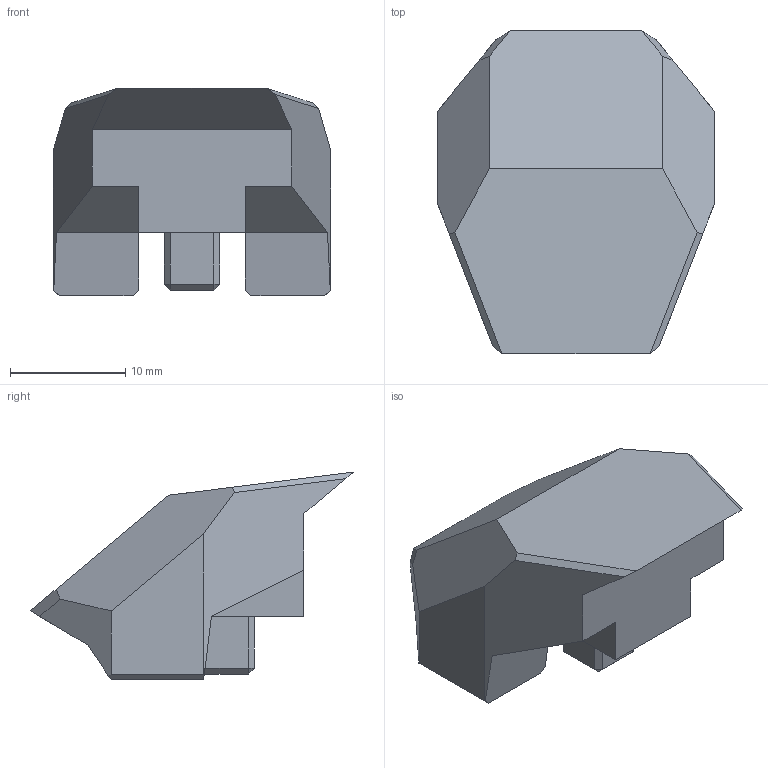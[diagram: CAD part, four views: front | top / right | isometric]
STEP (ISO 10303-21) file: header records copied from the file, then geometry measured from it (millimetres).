
FILE_DESCRIPTION (( 'STEP AP214' ), '1' );
FILE_NAME ('Chest Armor.STEP', '2023-12-23T22:28:55', ( '' ), ( '' ), 'SwSTEP 2.0', 'SolidWorks 2023', '' );
FILE_SCHEMA (( 'AUTOMOTIVE_DESIGN' ));
Length unit declared in the file: millimetre
Products named in the file (1): Chest Armor
Bounding box: 24 x 28 x 18 mm (x, y, z)
Volume: 4930 mm3; surface area: 2127.4 mm2
Topology: 1 solids, 1 shells, 51 faces, 128 edges, 80 vertices
Faces by surface type: plane 51
Entity records: 1497 total; most frequent: CARTESIAN_POINT 260, ORIENTED_EDGE 256, DIRECTION 232, EDGE_CURVE 128, LINE 128, VECTOR 128, VERTEX_POINT 80, EDGE_LOOP 52
